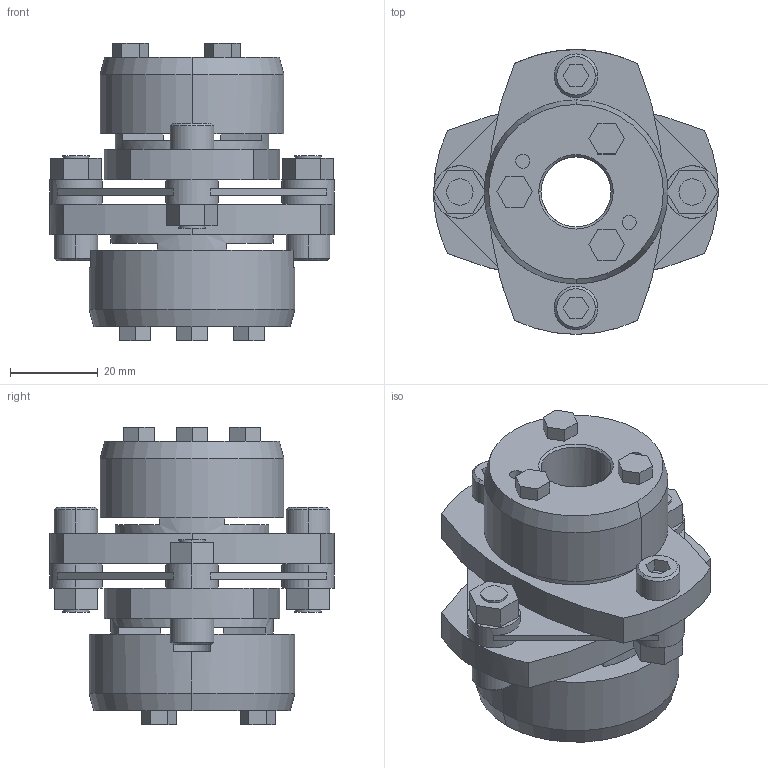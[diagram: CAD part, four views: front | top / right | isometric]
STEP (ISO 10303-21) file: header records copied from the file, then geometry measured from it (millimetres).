
FILE_DESCRIPTION((''),'2;1');
FILE_NAME('LCS-65T7-16×17.stp','2011-08-23T13:11:23',(''),(''),'AutoCAD STEP 2000i','AutoCAD 2000i',', , ');
FILE_SCHEMA(('CONFIG_CONTROL_DESIGN'));
Length unit declared in the file: millimetre
Products named in the file (6): LCS-65T7-15×17; 忣兜1; LC65T7-T017; LC65T7-T015-1; LC65T7-T015; LCS65-ITA
Assembly tree (5 placements, depth 2):
  LCS-65T7-15×17
    忣兜1
    LC65T7-T017
    LC65T7-T015-1
    LC65T7-T015
    LCS65-ITA
Bounding box: 65 x 65 x 67.9 mm (x, y, z)
Volume: 87350.7 mm3; surface area: 29190.1 mm2
Topology: 1 solids, 1 shells, 224 faces, 575 edges, 375 vertices
Faces by surface type: plane 134, cylinder 70, cone 20
Entity records: 7023 total; most frequent: DIRECTION 1238, CARTESIAN_POINT 1180, ORIENTED_EDGE 1150, EDGE_CURVE 575, AXIS2_PLACEMENT_3D 433, VERTEX_POINT 375, VECTOR 372, LINE 372
